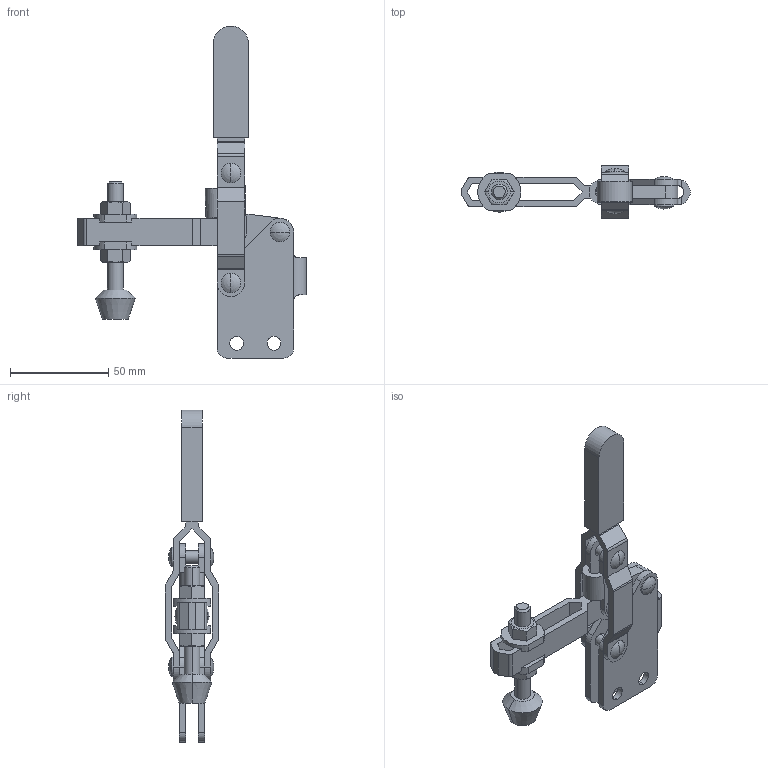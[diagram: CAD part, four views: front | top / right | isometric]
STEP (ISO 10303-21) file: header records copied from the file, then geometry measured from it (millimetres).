
FILE_DESCRIPTION(('CATIA V5 STEP Exchange'),'2;1');
FILE_NAME('D:\Model\toggle\toggle_standard\KJF_018_11S.stp','2005-06-24T04:53:24+00:00',('none'),('none'),'CATIA Version 5 Release 11 (IN-9)','CATIA V5 STEP AP203',' none');
FILE_SCHEMA(('CONFIG_CONTROL_DESIGN'));
Length unit declared in the file: millimetre
Products named in the file (1): Part1
Bounding box: 116.4 x 27.2 x 169.2 mm (x, y, z)
Volume: 58545.3 mm3; surface area: 38385.4 mm2
Topology: 13 solids, 13 shells, 264 faces, 688 edges, 444 vertices
Faces by surface type: plane 123, cylinder 111, sphere 20, cone 6, torus 4
Entity records: 7714 total; most frequent: CARTESIAN_POINT 1541, ORIENTED_EDGE 1344, DIRECTION 1036, EDGE_CURVE 672, AXIS2_PLACEMENT_3D 473, VERTEX_POINT 444, VECTOR 370, LINE 370
